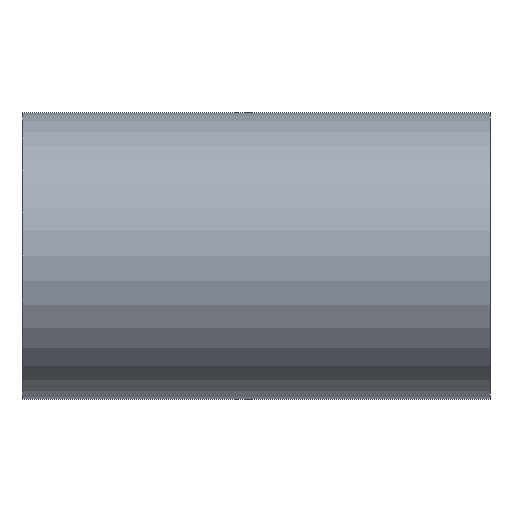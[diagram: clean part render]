
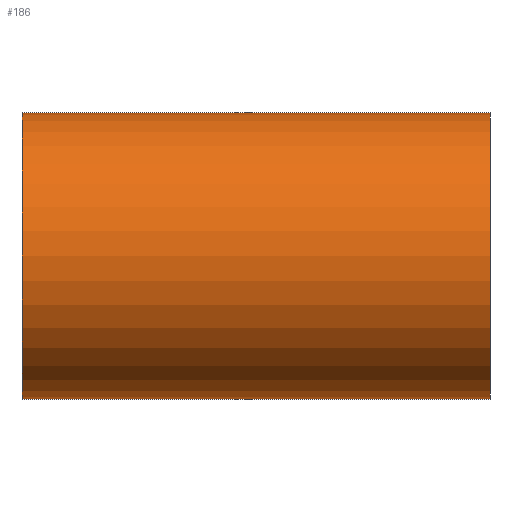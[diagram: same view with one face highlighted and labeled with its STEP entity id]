
A CAD part, front view. The second image highlights one B-rep face of the part: STEP entity #186.
In plain terms, the highlighted cylindrical face has radius 435 mm (diameter 870 mm), a partial arc.
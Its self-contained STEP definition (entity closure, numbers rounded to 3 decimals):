
#186=ADVANCED_FACE('',(#374),#375,.T.);
#374=FACE_OUTER_BOUND('',#589,.T.);
#375=CYLINDRICAL_SURFACE('',#590,435.0);
#589=EDGE_LOOP('',(#1079,#1080,#1081,#1082));
#590=AXIS2_PLACEMENT_3D('',#1083,#1084,#1085);
#1079=ORIENTED_EDGE('',*,*,#1167,.T.);
#1080=ORIENTED_EDGE('',*,*,#1373,.F.);
#1081=ORIENTED_EDGE('',*,*,#1169,.T.);
#1082=ORIENTED_EDGE('',*,*,#1374,.F.);
#1083=CARTESIAN_POINT('',(0.0,0.0,0.0));
#1084=DIRECTION('',(1.0,0.0,0.0));
#1085=DIRECTION('',(0.0,0.0,-1.0));
#1167=EDGE_CURVE('',#1378,#1379,#1380,.T.);
#1169=EDGE_CURVE('',#1383,#1381,#1384,.T.);
#1373=EDGE_CURVE('',#1383,#1379,#1687,.T.);
#1374=EDGE_CURVE('',#1378,#1381,#1688,.T.);
#1378=VERTEX_POINT('',#1692);
#1379=VERTEX_POINT('',#1693);
#1380=LINE('',#1694,#1695);
#1381=VERTEX_POINT('',#1696);
#1383=VERTEX_POINT('',#1698);
#1384=LINE('',#1699,#1700);
#1687=CIRCLE('',#2063,435.0);
#1688=CIRCLE('',#2064,435.0);
#1692=CARTESIAN_POINT('',(-710.0,0.0,-435.0));
#1693=CARTESIAN_POINT('',(710.0,0.0,-435.0));
#1694=CARTESIAN_POINT('',(0.0,0.,-435.0));
#1695=VECTOR('',#2067,1.0);
#1696=CARTESIAN_POINT('',(-710.0,0.,435.0));
#1698=CARTESIAN_POINT('',(710.0,0.,435.0));
#1699=CARTESIAN_POINT('',(0.0,0.,435.0));
#1700=VECTOR('',#2071,1.0);
#2063=AXIS2_PLACEMENT_3D('',#2402,#2403,#2404);
#2064=AXIS2_PLACEMENT_3D('',#2405,#2406,#2407);
#2067=DIRECTION('',(1.0,0.0,0.0));
#2071=DIRECTION('',(-1.0,-0.0,-0.0));
#2402=CARTESIAN_POINT('',(710.0,0.0,0.0));
#2403=DIRECTION('',(1.0,0.0,0.0));
#2404=DIRECTION('',(0.0,0.0,-1.0));
#2405=CARTESIAN_POINT('',(-710.0,0.0,0.0));
#2406=DIRECTION('',(-1.0,0.0,0.0));
#2407=DIRECTION('',(0.0,0.0,-1.0));
